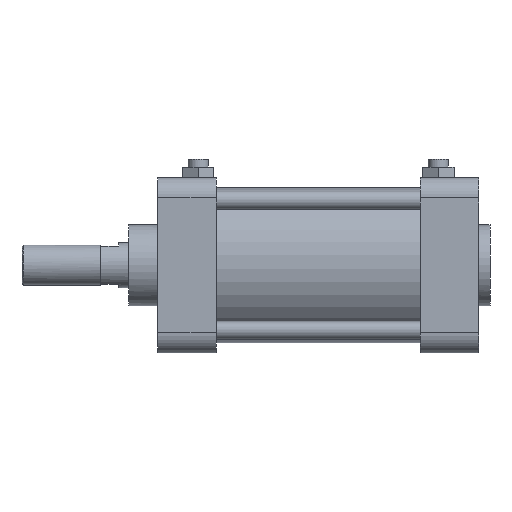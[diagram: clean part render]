
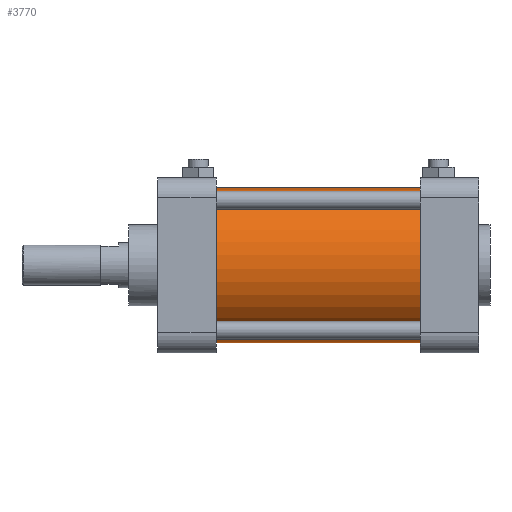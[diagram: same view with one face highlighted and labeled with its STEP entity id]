
A CAD part, front view. The second image highlights one B-rep face of the part: STEP entity #3770.
In plain terms, the highlighted cylindrical face has radius 34.5 mm (diameter 69 mm), a partial arc.
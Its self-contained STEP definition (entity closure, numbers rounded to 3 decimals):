
#256 = DIRECTION ( 'NONE',  ( -1., 0., 0. ) ) ;
#330 = DIRECTION ( 'NONE',  ( -1., 0., 0. ) ) ;
#338 = AXIS2_PLACEMENT_3D ( 'NONE', #6439, #330, #2222 ) ;
#468 = VERTEX_POINT ( 'NONE', #6831 ) ;
#505 = FACE_OUTER_BOUND ( 'NONE', #3063, .T. ) ;
#997 = EDGE_CURVE ( 'NONE', #3460, #2854, #4464, .T. ) ;
#1145 = LINE ( 'NONE', #2678, #5293 ) ;
#1164 = CARTESIAN_POINT ( 'NONE',  ( 45.5, 0., -34.5 ) ) ;
#2084 = CIRCLE ( 'NONE', #338, 34.5 ) ;
#2110 = ORIENTED_EDGE ( 'NONE', *, *, #5679, .F. ) ;
#2146 = CARTESIAN_POINT ( 'NONE',  ( -45.5, 0., 34.5 ) ) ;
#2222 = DIRECTION ( 'NONE',  ( 0., 0., 1. ) ) ;
#2232 = ORIENTED_EDGE ( 'NONE', *, *, #4830, .T. ) ;
#2678 = CARTESIAN_POINT ( 'NONE',  ( -29.1, 0., -34.5 ) ) ;
#2757 = CARTESIAN_POINT ( 'NONE',  ( -45.5, 0., -34.5 ) ) ;
#2854 = VERTEX_POINT ( 'NONE', #2146 ) ;
#3063 = EDGE_LOOP ( 'NONE', ( #2110, #2232, #4738, #3707 ) ) ;
#3132 = LINE ( 'NONE', #7701, #5086 ) ;
#3329 = DIRECTION ( 'NONE',  ( -1., 0., 0. ) ) ;
#3422 = DIRECTION ( 'NONE',  ( -1., 0., 0. ) ) ;
#3460 = VERTEX_POINT ( 'NONE', #2757 ) ;
#3667 = CARTESIAN_POINT ( 'NONE',  ( -29.1, 0., 0. ) ) ;
#3707 = ORIENTED_EDGE ( 'NONE', *, *, #997, .F. ) ;
#3770 = ADVANCED_FACE ( 'NONE', ( #505 ), #7496, .T. ) ;
#4464 = CIRCLE ( 'NONE', #5047, 34.5 ) ;
#4546 = DIRECTION ( 'NONE',  ( -1., 0., 0. ) ) ;
#4717 = DIRECTION ( 'NONE',  ( 0., 0., 1. ) ) ;
#4738 = ORIENTED_EDGE ( 'NONE', *, *, #5291, .T. ) ;
#4830 = EDGE_CURVE ( 'NONE', #6357, #468, #2084, .T. ) ;
#5047 = AXIS2_PLACEMENT_3D ( 'NONE', #6529, #3329, #5122 ) ;
#5086 = VECTOR ( 'NONE', #4546, 1000. ) ;
#5122 = DIRECTION ( 'NONE',  ( 0., 0., 1. ) ) ;
#5170 = AXIS2_PLACEMENT_3D ( 'NONE', #3667, #256, #4717 ) ;
#5291 = EDGE_CURVE ( 'NONE', #468, #2854, #3132, .T. ) ;
#5293 = VECTOR ( 'NONE', #3422, 1000. ) ;
#5679 = EDGE_CURVE ( 'NONE', #6357, #3460, #1145, .T. ) ;
#6357 = VERTEX_POINT ( 'NONE', #1164 ) ;
#6439 = CARTESIAN_POINT ( 'NONE',  ( 45.5, 0., 0. ) ) ;
#6529 = CARTESIAN_POINT ( 'NONE',  ( -45.5, 0., 0. ) ) ;
#6831 = CARTESIAN_POINT ( 'NONE',  ( 45.5, 0., 34.5 ) ) ;
#7496 = CYLINDRICAL_SURFACE ( 'NONE', #5170, 34.5 ) ;
#7701 = CARTESIAN_POINT ( 'NONE',  ( -29.1, 0., 34.5 ) ) ;
